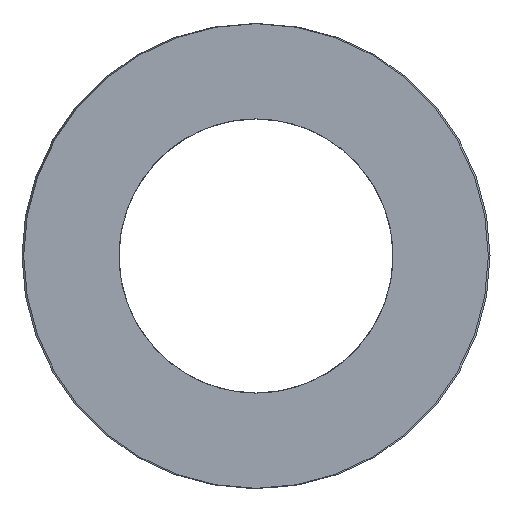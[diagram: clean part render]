
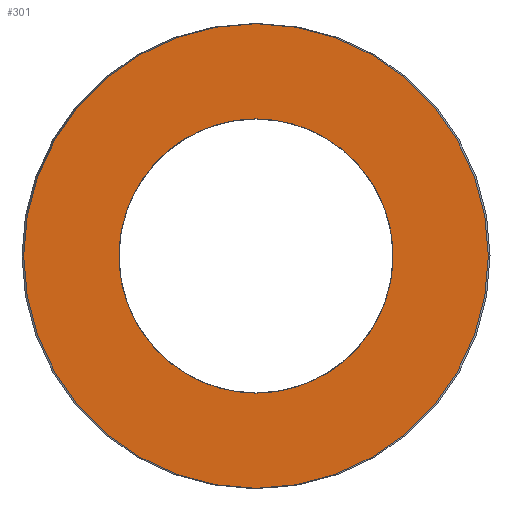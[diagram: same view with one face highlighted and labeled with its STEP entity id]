
A CAD part, left-side view. The second image highlights one B-rep face of the part: STEP entity #301.
In plain terms, the highlighted planar face has unit normal (-1, 0, 0).
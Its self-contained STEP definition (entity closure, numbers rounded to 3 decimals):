
#63=CARTESIAN_POINT('Vertex',(0.,6.1,0.)) ;
#77=CARTESIAN_POINT('Vertex',(0.,-6.1,0.)) ;
#80=CARTESIAN_POINT('Axis2P3D Location',(0.,0.,0.)) ;
#97=CARTESIAN_POINT('Axis2P3D Location',(0.,0.,0.)) ;
#232=CARTESIAN_POINT('Axis2P3D Location',(0.,3.05,0.)) ;
#242=CARTESIAN_POINT('Control Point',(0.,0.,-3.6)) ;
#243=CARTESIAN_POINT('Control Point',(0.,0.372,-3.6)) ;
#244=CARTESIAN_POINT('Control Point',(0.,0.744,-3.552)) ;
#245=CARTESIAN_POINT('Control Point',(0.,1.107,-3.456)) ;
#246=CARTESIAN_POINT('Control Point',(0.,1.801,-3.172)) ;
#247=CARTESIAN_POINT('Control Point',(0.,2.4,-2.722)) ;
#248=CARTESIAN_POINT('Control Point',(0.,2.669,-2.459)) ;
#249=CARTESIAN_POINT('Control Point',(0.,3.133,-1.869)) ;
#250=CARTESIAN_POINT('Control Point',(0.,3.431,-1.182)) ;
#251=CARTESIAN_POINT('Control Point',(0.,3.535,-0.82)) ;
#252=CARTESIAN_POINT('Control Point',(0.,3.647,-0.079)) ;
#253=CARTESIAN_POINT('Control Point',(0.,3.567,0.667)) ;
#254=CARTESIAN_POINT('Control Point',(0.,3.479,1.032)) ;
#255=CARTESIAN_POINT('Control Point',(0.,3.21,1.732)) ;
#256=CARTESIAN_POINT('Control Point',(0.,2.773,2.341)) ;
#257=CARTESIAN_POINT('Control Point',(0.,2.516,2.615)) ;
#258=CARTESIAN_POINT('Control Point',(0.,1.937,3.092)) ;
#259=CARTESIAN_POINT('Control Point',(0.,1.255,3.405)) ;
#260=CARTESIAN_POINT('Control Point',(0.,0.896,3.517)) ;
#261=CARTESIAN_POINT('Control Point',(0.,0.496,3.586)) ;
#262=CARTESIAN_POINT('Control Point',(0.,0.093,3.599)) ;
#263=CARTESIAN_POINT('Control Point',(0.,0.062,3.6)) ;
#264=CARTESIAN_POINT('Control Point',(0.,0.031,3.6)) ;
#265=CARTESIAN_POINT('Control Point',(0.,0.,3.6)) ;
#266=CARTESIAN_POINT('Vertex',(0.,0.,-3.6)) ;
#268=CARTESIAN_POINT('Vertex',(0.,0.,3.6)) ;
#272=CARTESIAN_POINT('Control Point',(0.,0.,3.6)) ;
#273=CARTESIAN_POINT('Control Point',(0.,-0.372,3.6)) ;
#274=CARTESIAN_POINT('Control Point',(0.,-0.744,3.552)) ;
#275=CARTESIAN_POINT('Control Point',(0.,-1.107,3.456)) ;
#276=CARTESIAN_POINT('Control Point',(0.,-1.801,3.172)) ;
#277=CARTESIAN_POINT('Control Point',(0.,-2.4,2.722)) ;
#278=CARTESIAN_POINT('Control Point',(0.,-2.669,2.459)) ;
#279=CARTESIAN_POINT('Control Point',(0.,-3.133,1.869)) ;
#280=CARTESIAN_POINT('Control Point',(0.,-3.431,1.182)) ;
#281=CARTESIAN_POINT('Control Point',(0.,-3.535,0.82)) ;
#282=CARTESIAN_POINT('Control Point',(0.,-3.647,0.079)) ;
#283=CARTESIAN_POINT('Control Point',(0.,-3.567,-0.667)) ;
#284=CARTESIAN_POINT('Control Point',(0.,-3.479,-1.032)) ;
#285=CARTESIAN_POINT('Control Point',(0.,-3.21,-1.732)) ;
#286=CARTESIAN_POINT('Control Point',(0.,-2.773,-2.341)) ;
#287=CARTESIAN_POINT('Control Point',(0.,-2.516,-2.615)) ;
#288=CARTESIAN_POINT('Control Point',(0.,-1.937,-3.092)) ;
#289=CARTESIAN_POINT('Control Point',(0.,-1.255,-3.405)) ;
#290=CARTESIAN_POINT('Control Point',(0.,-0.896,-3.517)) ;
#291=CARTESIAN_POINT('Control Point',(0.,-0.496,-3.586)) ;
#292=CARTESIAN_POINT('Control Point',(0.,-0.093,-3.599)) ;
#293=CARTESIAN_POINT('Control Point',(0.,-0.062,-3.6)) ;
#294=CARTESIAN_POINT('Control Point',(0.,-0.031,-3.6)) ;
#295=CARTESIAN_POINT('Control Point',(0.,0.,-3.6)) ;
#81=DIRECTION('Axis2P3D Direction',(1.,-0.,0.)) ;
#98=DIRECTION('Axis2P3D Direction',(1.,-0.,0.)) ;
#233=DIRECTION('Axis2P3D Direction',(-1.,0.,0.)) ;
#234=DIRECTION('Axis2P3D XDirection',(0.,1.,0.)) ;
#82=AXIS2_PLACEMENT_3D('Circle Axis2P3D',#80,#81,$) ;
#99=AXIS2_PLACEMENT_3D('Circle Axis2P3D',#97,#98,$) ;
#235=AXIS2_PLACEMENT_3D('Plane Axis2P3D',#232,#233,#234) ;
#238=ORIENTED_EDGE('',*,*,#84,.T.) ;
#239=ORIENTED_EDGE('',*,*,#101,.T.) ;
#298=ORIENTED_EDGE('',*,*,#270,.T.) ;
#299=ORIENTED_EDGE('',*,*,#296,.T.) ;
#300=FACE_BOUND('',#297,.T.) ;
#301=ADVANCED_FACE('392-B13-064',(#240,#300),#236,.T.) ;
#241=B_SPLINE_CURVE_WITH_KNOTS('',5,(#242,#243,#244,#245,#246,#247,#248,#249,#250,#251,#252,#253,#254,#255,#256,#257,#258,#259,#260,#261,#262,#263,#264,#265),.UNSPECIFIED.,.F.,.U.,(6,3,3,3,3,3,3,6),(0.,2.629,5.258,7.887,10.516,13.145,15.774,15.994),.UNSPECIFIED.) ;
#271=B_SPLINE_CURVE_WITH_KNOTS('',5,(#272,#273,#274,#275,#276,#277,#278,#279,#280,#281,#282,#283,#284,#285,#286,#287,#288,#289,#290,#291,#292,#293,#294,#295),.UNSPECIFIED.,.F.,.U.,(6,3,3,3,3,3,3,6),(0.,2.629,5.258,7.887,10.516,13.145,15.774,15.994),.UNSPECIFIED.) ;
#83=CIRCLE('generated circle',#82,6.1) ;
#100=CIRCLE('generated circle',#99,6.1) ;
#84=EDGE_CURVE('',#64,#78,#83,.F.) ;
#101=EDGE_CURVE('',#78,#64,#100,.F.) ;
#270=EDGE_CURVE('',#267,#269,#241,.T.) ;
#296=EDGE_CURVE('',#269,#267,#271,.T.) ;
#237=EDGE_LOOP('',(#238,#239)) ;
#297=EDGE_LOOP('',(#298,#299)) ;
#240=FACE_OUTER_BOUND('',#237,.T.) ;
#236=PLANE('Plane',#235) ;
#64=VERTEX_POINT('',#63) ;
#78=VERTEX_POINT('',#77) ;
#267=VERTEX_POINT('',#266) ;
#269=VERTEX_POINT('',#268) ;
